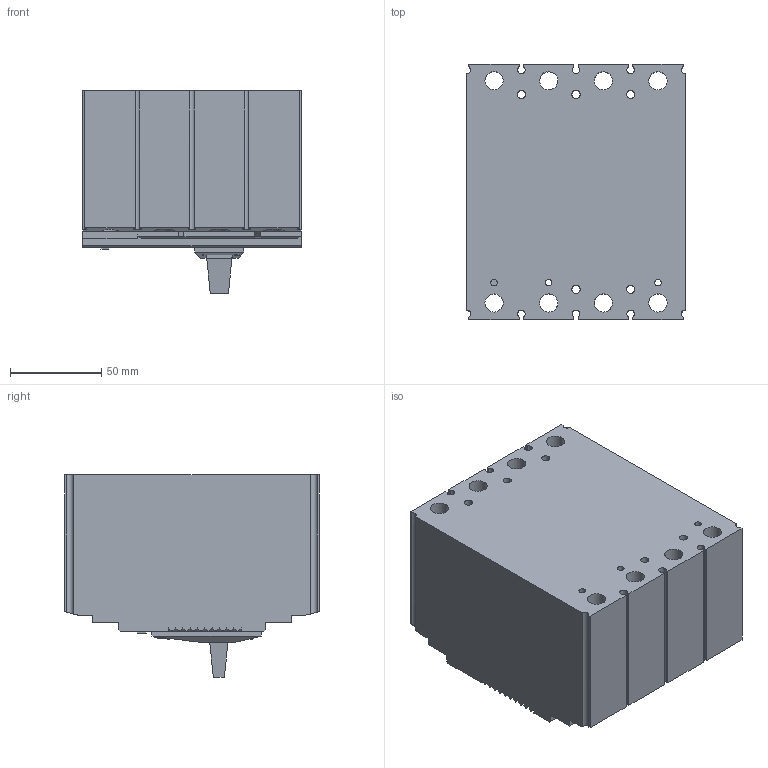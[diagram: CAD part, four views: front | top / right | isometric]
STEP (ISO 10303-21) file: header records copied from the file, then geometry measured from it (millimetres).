
FILE_DESCRIPTION(/* description */ ('','CAx-IF Rec.Pracs.---Representation and Presentation of Product Manufacturing Information (PMI)---3.8---2014-02-18'),/* implementation_level */ '2;1');
FILE_NAME(/* name */ 'E:\3D model\34-susol-mccb-160af-td-4pl.stp',/* time_stamp */ '2017-11-09T14:49:38+03:00',/* author */ ('dobrin'),/* organization */ (''),/* preprocessor_version */ 'ST-DEVELOPER v16.13',/* originating_system */ 'Autodesk Inventor 2018',/* authorisation */ '');
FILE_SCHEMA (('AP242_MANAGED_MODEL_BASED_3D_ENGINEERING_MIM_LF { 1 0 10303 442 1 1 4 }'));
Length unit declared in the file: metre
Products named in the file (1): 34-susol-mccb-160af-td-4pl
Bounding box: 120 x 140 x 111 mm (x, y, z)
Volume: 1327689.6 mm3; surface area: 110959.1 mm2
Topology: 1 solids, 1 shells, 610 faces, 1727 edges, 1144 vertices
Faces by surface type: plane 534, cylinder 54, bspline 12, cone 10
Full cylindrical faces by diameter (mm): 1.9 x1, 2.5 x4, 3.34 x1, 3.6 x3, 4.5 x5, 10 x8
Entity records: 20121 total; most frequent: CARTESIAN_POINT 4287, ORIENTED_EDGE 3368, DIRECTION 3017, EDGE_CURVE 1684, LINE 1511, VECTOR 1511, VERTEX_POINT 1127, AXIS2_PLACEMENT_3D 757
